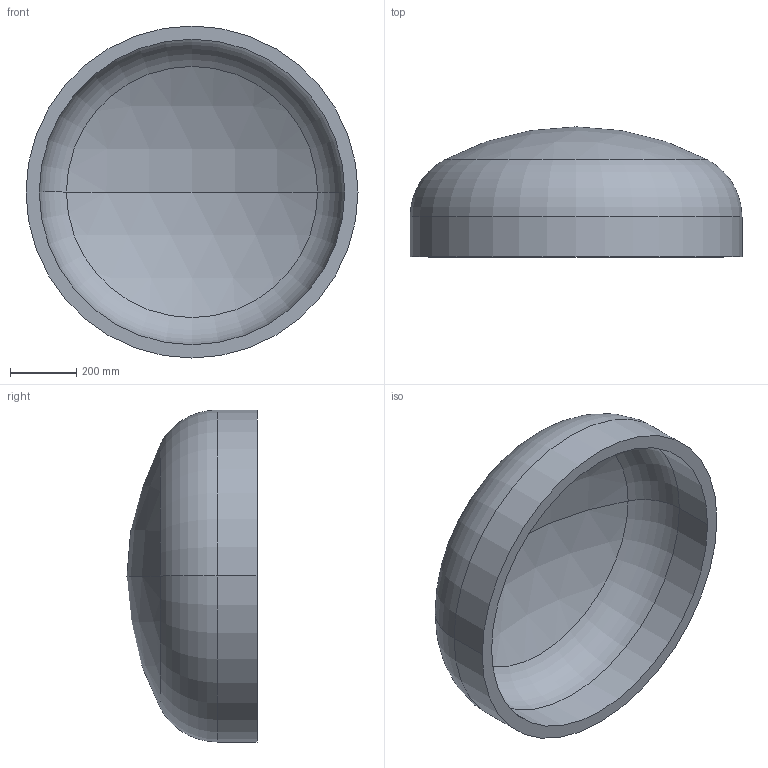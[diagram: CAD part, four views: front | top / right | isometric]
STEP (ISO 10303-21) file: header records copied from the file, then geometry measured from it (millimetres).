
FILE_DESCRIPTION (( 'STEP AP203' ), '1' );
FILE_NAME ('DIN 28013 Korbbogenform_-_Boden DIN 28013 - 1000 x 120 - I - s=40.step', '2016-07-01T08:48:43', ( '' ), ( '' ), 'SwSTEP 2.0', 'SolidWorks 2013', '' );
FILE_SCHEMA (( 'CONFIG_CONTROL_DESIGN' ));
Length unit declared in the file: millimetre
Products named in the file (1): DIN 28013 Korbbogenform_-_Boden DIN 28013 - 1000 x 120 - I - s=40
Bounding box: 1000 x 391.67 x 1000 mm (x, y, z)
Volume: 55843894.8 mm3; surface area: 2916182.3 mm2
Topology: 1 solids, 1 shells, 13 faces, 24 edges, 14 vertices
Faces by surface type: torus 4, cylinder 4, sphere 4, plane 1
Entity records: 407 total; most frequent: DIRECTION 72, CARTESIAN_POINT 52, ORIENTED_EDGE 48, AXIS2_PLACEMENT_3D 34, EDGE_CURVE 24, CIRCLE 20, VERTEX_POINT 14, EDGE_LOOP 14
